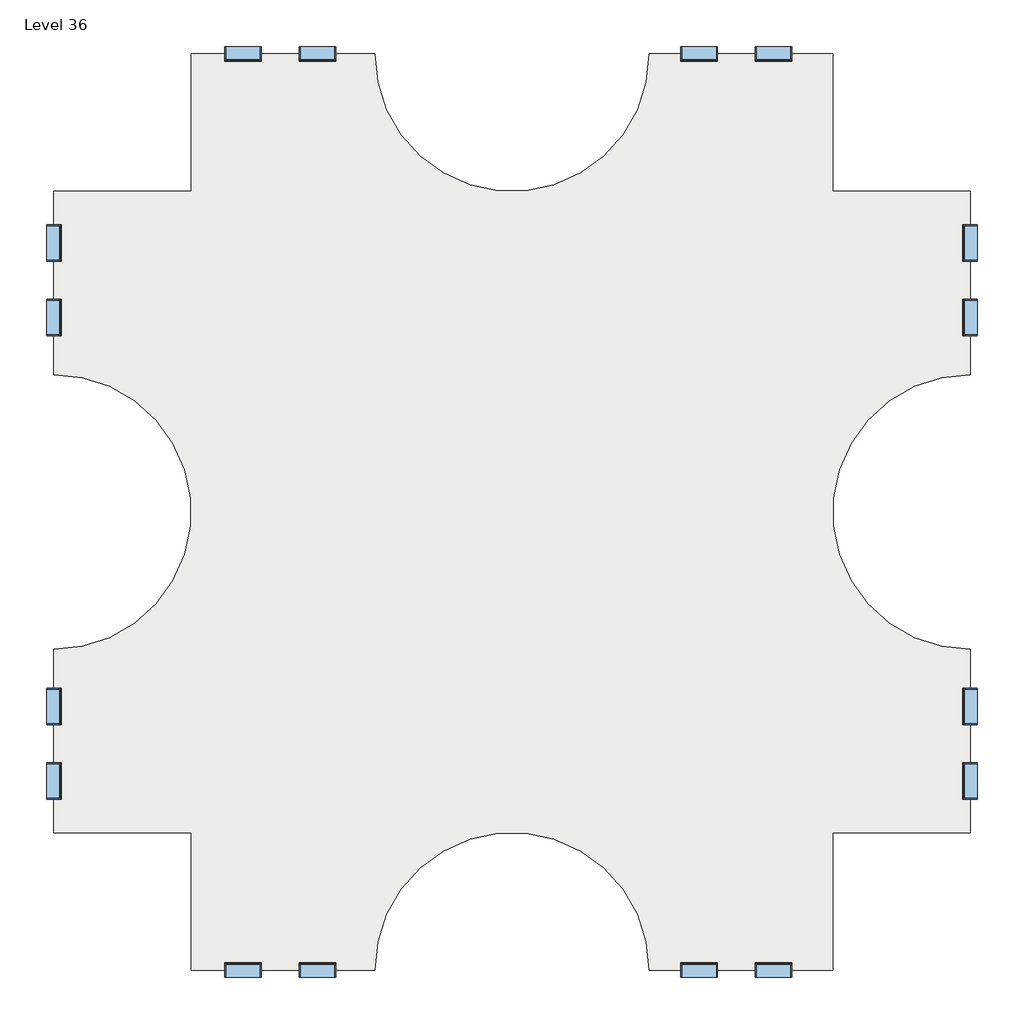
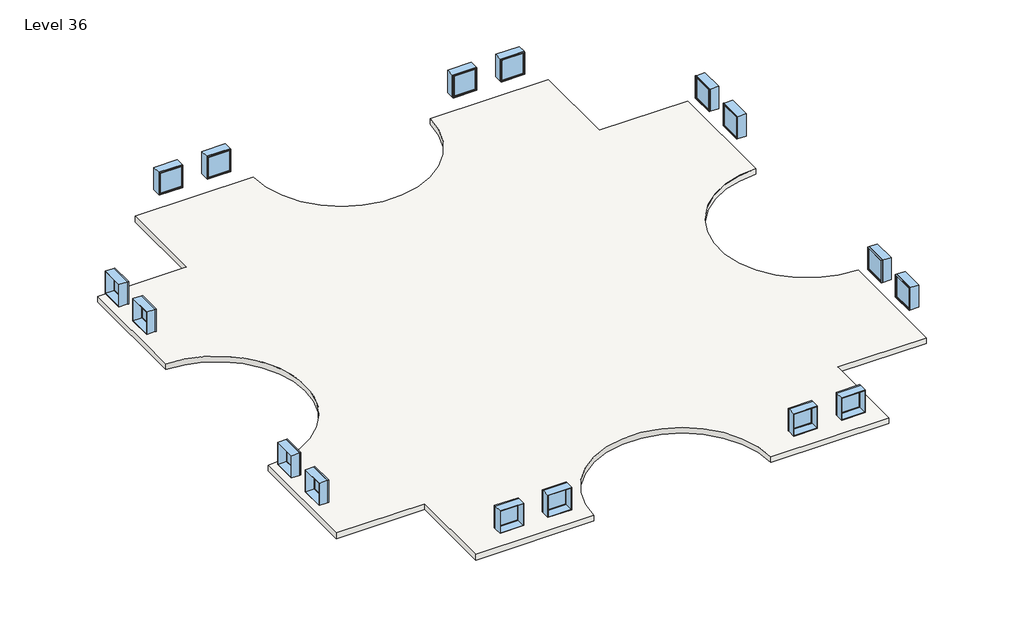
# One storey: 16 windows, 3 slabs.
"""IFC4 building model written with IfcOpenShell, lengths in millimetres."""

from ifc_helpers import new_model, si_unit, point, frame, frame_2d, origin, place, context, project, spatial, polyline, circle_curve, trimmed, segment, composite_curve, outline, extrude, transform, mapped, element, save
from components import window_d0035ecf, window_d434eb62

model = new_model("IFC4")

# Units and contexts
model_context = context("Model", 3, world=origin())
ifc_project = project(units=[si_unit("LENGTHUNIT", "METRE", prefix="MILLI")], contexts=[model_context])

# Site, building, storey
site = spatial("IfcSite", under=ifc_project)
building = spatial("IfcBuilding", under=site)
storey = spatial("IfcBuildingStorey", under=building, Name="Level 36", Elevation=106680.0)

# Slabs
placement = place(None, origin())
element("IfcSlab", 1, ObjectType="Generic - 12\"", at=placement, inside=storey, context=model_context, shape_type="SweptSolid", body=[
    extrude(outline(composite_curve([segment(polyline([(-7150.3629456, 4479.6634547), (-7150.3629456, 9051.6634547), (-1054.3629456, 9051.6634547)]), True, "CONTINUOUS"), segment(trimmed(circle_curve(frame_2d((3517.6370544, 9051.6634547)), 4572.0), [point((-1054.3629456, 9051.6634547))], [point((8089.6370544, 9051.6634547))], True, "CARTESIAN"), True, "CONTINUOUS"), segment(polyline([(8089.6370544, 9051.6634547), (14185.6370544, 9051.6634547), (14185.6370544, 4479.6634547), (18757.6370544, 4479.6634547), (18757.6370544, -1616.3365453)]), True, "CONTINUOUS"), segment(trimmed(circle_curve(frame_2d((18757.6370544, -6188.3365453)), 4572.0), [point((18757.6370544, -1616.3365453))], [point((18757.6370544, -10760.3365453))], True, "CARTESIAN"), True, "CONTINUOUS"), segment(polyline([(18757.6370544, -10760.3365453), (18757.6370544, -16856.3365453), (14185.6370544, -16856.3365453), (14185.6370544, -21428.3365453), (8089.6370544, -21428.3365453)]), True, "CONTINUOUS"), segment(trimmed(circle_curve(frame_2d((3517.6370544, -21428.3365453)), 4572.0), [point((8089.6370544, -21428.3365453))], [point((-1054.3629456, -21428.3365453))], True, "CARTESIAN"), True, "CONTINUOUS"), segment(polyline([(-1054.3629456, -21428.3365453), (-7150.3629456, -21428.3365453), (-7150.3629456, -16856.3365453), (-11722.3629456, -16856.3365453), (-11722.3629456, -10760.3365453)]), True, "CONTINUOUS"), segment(trimmed(circle_curve(frame_2d((-11722.3629456, -6188.3365453)), 4572.0), [point((-11722.3629456, -10760.3365453))], [point((-11722.3629456, -1616.3365453))], True, "CARTESIAN"), True, "CONTINUOUS"), segment(polyline([(-11722.3629456, -1616.3365453), (-11722.3629456, 4479.6634547), (-7150.3629456, 4479.6634547)]), True, "CONTINUOUS")], self_intersect=False)), frame((0.0, 0.0, 106375.2), z_axis=(0.0, 0.0, 1.0), x_axis=(1.0, 0.0, 0.0)), (0.0, 0.0, 1.0), 304.8),
])
element("IfcSlab", 2, ObjectType="Generic - 12\"", at=placement, inside=storey, context=model_context, shape_type="SweptSolid", body=[
    extrude(outline(composite_curve([segment(polyline([(-7150.3629456, 4479.6634547), (-7150.3629456, 9051.6634547), (-1054.3629456, 9051.6634547)]), True, "CONTINUOUS"), segment(trimmed(circle_curve(frame_2d((3517.6370544, 9051.6634547)), 4572.0), [point((-1054.3629456, 9051.6634547))], [point((8089.6370544, 9051.6634547))], True, "CARTESIAN"), True, "CONTINUOUS"), segment(polyline([(8089.6370544, 9051.6634547), (14185.6370544, 9051.6634547), (14185.6370544, 4479.6634547), (18757.6370544, 4479.6634547), (18757.6370544, -1616.3365453)]), True, "CONTINUOUS"), segment(trimmed(circle_curve(frame_2d((18757.6370544, -6188.3365453)), 4572.0), [point((18757.6370544, -1616.3365453))], [point((18757.6370544, -10760.3365453))], True, "CARTESIAN"), True, "CONTINUOUS"), segment(polyline([(18757.6370544, -10760.3365453), (18757.6370544, -16856.3365453), (14185.6370544, -16856.3365453), (14185.6370544, -21428.3365453), (8089.6370544, -21428.3365453)]), True, "CONTINUOUS"), segment(trimmed(circle_curve(frame_2d((3517.6370544, -21428.3365453)), 4572.0), [point((8089.6370544, -21428.3365453))], [point((-1054.3629456, -21428.3365453))], True, "CARTESIAN"), True, "CONTINUOUS"), segment(polyline([(-1054.3629456, -21428.3365453), (-7150.3629456, -21428.3365453), (-7150.3629456, -16856.3365453), (-11722.3629456, -16856.3365453), (-11722.3629456, -10760.3365453)]), True, "CONTINUOUS"), segment(trimmed(circle_curve(frame_2d((-11722.3629456, -6188.3365453)), 4572.0), [point((-11722.3629456, -10760.3365453))], [point((-11722.3629456, -1616.3365453))], True, "CARTESIAN"), True, "CONTINUOUS"), segment(polyline([(-11722.3629456, -1616.3365453), (-11722.3629456, 4479.6634547), (-7150.3629456, 4479.6634547)]), True, "CONTINUOUS")], self_intersect=False)), frame((0.0, 0.0, 106375.2), z_axis=(0.0, 0.0, 1.0), x_axis=(1.0, 0.0, 0.0)), (0.0, 0.0, 1.0), 304.8),
])
element("IfcSlab", 3, ObjectType="Generic - 12\"", at=placement, inside=storey, context=model_context, shape_type="SweptSolid", body=[
    extrude(outline(composite_curve([segment(polyline([(-7150.3629456, 4479.6634547), (-7150.3629456, 9051.6634547), (-1054.3629456, 9051.6634547)]), True, "CONTINUOUS"), segment(trimmed(circle_curve(frame_2d((3517.6370544, 9051.6634547)), 4572.0), [point((-1054.3629456, 9051.6634547))], [point((8089.6370544, 9051.6634547))], True, "CARTESIAN"), True, "CONTINUOUS"), segment(polyline([(8089.6370544, 9051.6634547), (14185.6370544, 9051.6634547), (14185.6370544, 4479.6634547), (18757.6370544, 4479.6634547), (18757.6370544, -1616.3365453)]), True, "CONTINUOUS"), segment(trimmed(circle_curve(frame_2d((18757.6370544, -6188.3365453)), 4572.0), [point((18757.6370544, -1616.3365453))], [point((18757.6370544, -10760.3365453))], True, "CARTESIAN"), True, "CONTINUOUS"), segment(polyline([(18757.6370544, -10760.3365453), (18757.6370544, -16856.3365453), (14185.6370544, -16856.3365453), (14185.6370544, -21428.3365453), (8089.6370544, -21428.3365453)]), True, "CONTINUOUS"), segment(trimmed(circle_curve(frame_2d((3517.6370544, -21428.3365453)), 4572.0), [point((8089.6370544, -21428.3365453))], [point((-1054.3629456, -21428.3365453))], True, "CARTESIAN"), True, "CONTINUOUS"), segment(polyline([(-1054.3629456, -21428.3365453), (-7150.3629456, -21428.3365453), (-7150.3629456, -16856.3365453), (-11722.3629456, -16856.3365453), (-11722.3629456, -10760.3365453)]), True, "CONTINUOUS"), segment(trimmed(circle_curve(frame_2d((-11722.3629456, -6188.3365453)), 4572.0), [point((-11722.3629456, -10760.3365453))], [point((-11722.3629456, -1616.3365453))], True, "CARTESIAN"), True, "CONTINUOUS"), segment(polyline([(-11722.3629456, -1616.3365453), (-11722.3629456, 4479.6634547), (-7150.3629456, 4479.6634547)]), True, "CONTINUOUS")], self_intersect=False)), frame((0.0, 0.0, 106375.2), z_axis=(0.0, 0.0, 1.0), x_axis=(1.0, 0.0, 0.0)), (0.0, 0.0, 1.0), 304.8),
])

# Windows
window_shape = window_d0035ecf(model_context)
element("IfcWindow", 4, ObjectType="Fixed : 48\" x 48\"", at=placement, inside=storey, context=model_context, shape_type="MappedRepresentation", body=[
    mapped(window_shape, transform((-11719.1879456, 247.3884547, 106680.0), x_axis=(0.0, -1.0, 0.0), y_axis=(1.0, 0.0, 0.0), z_axis=(0.0, 0.0, 1.0))),
])
element("IfcWindow", 5, ObjectType="Fixed : 48\" x 48\"", at=placement, inside=storey, context=model_context, shape_type="MappedRepresentation", body=[
    mapped(window_shape, transform((-5469.1993281, 9048.4884547, 106680.0), x_axis=(-1.0, 0.0, 0.0), y_axis=(0.0, -1.0, 0.0), z_axis=(0.0, 0.0, 1.0))),
])
element("IfcWindow", 6, ObjectType="Fixed : 48\" x 48\"", at=placement, inside=storey, context=model_context, shape_type="MappedRepresentation", body=[
    mapped(window_shape, transform((-11719.1879456, -15175.1729277, 106680.0), x_axis=(0.0, -1.0, 0.0), y_axis=(1.0, 0.0, 0.0), z_axis=(0.0, 0.0, 1.0))),
])
element("IfcWindow", 7, ObjectType="Fixed : 48\" x 48\"", at=placement, inside=storey, context=model_context, shape_type="MappedRepresentation", body=[
    mapped(window_shape, transform((-2918.0879456, -21425.1615453, 106680.0), x_axis=(1.0, 0.0, 0.0), y_axis=(0.0, 1.0, 0.0), z_axis=(0.0, 0.0, 1.0))),
])
element("IfcWindow", 8, ObjectType="Fixed : 48\" x 48\"", at=placement, inside=storey, context=model_context, shape_type="MappedRepresentation", body=[
    mapped(window_shape, transform((18754.4620544, 2798.4998372, 106680.0), x_axis=(0.0, 1.0, 0.0), y_axis=(-1.0, 0.0, 0.0), z_axis=(0.0, 0.0, 1.0))),
])
element("IfcWindow", 9, ObjectType="Fixed : 48\" x 48\"", at=placement, inside=storey, context=model_context, shape_type="MappedRepresentation", body=[
    mapped(window_shape, transform((9705.7120544, 9048.4884547, 106680.0), x_axis=(-1.0, 0.0, 0.0), y_axis=(0.0, -1.0, 0.0), z_axis=(0.0, 0.0, 1.0))),
])
element("IfcWindow", 10, ObjectType="Fixed : 48\" x 48\"", at=placement, inside=storey, context=model_context, shape_type="MappedRepresentation", body=[
    mapped(window_shape, transform((18754.4620544, -12624.0615453, 106680.0), x_axis=(0.0, 1.0, 0.0), y_axis=(-1.0, 0.0, 0.0), z_axis=(0.0, 0.0, 1.0))),
])
element("IfcWindow", 11, ObjectType="Fixed : 48\" x 48\"", at=placement, inside=storey, context=model_context, shape_type="MappedRepresentation", body=[
    mapped(window_shape, transform((12256.8234368, -21425.1615453, 106680.0), x_axis=(1.0, 0.0, 0.0), y_axis=(0.0, 1.0, 0.0), z_axis=(0.0, 0.0, 1.0))),
])
window_2_shape = window_d434eb62(model_context)
element("IfcWindow", 12, ObjectType="Fixed : 48\" x 48\"", at=placement, inside=storey, context=model_context, shape_type="MappedRepresentation", body=[
    mapped(window_2_shape, transform((-11719.1879456, 2798.4998372, 106680.0), x_axis=(0.0, 1.0, 0.0), y_axis=(-1.0, 0.0, 0.0), z_axis=(0.0, 0.0, 1.0))),
])
element("IfcWindow", 13, ObjectType="Fixed : 48\" x 48\"", at=placement, inside=storey, context=model_context, shape_type="MappedRepresentation", body=[
    mapped(window_2_shape, transform((-2918.0879456, 9048.4884547, 106680.0), x_axis=(1.0, 0.0, 0.0), y_axis=(0.0, 1.0, 0.0), z_axis=(0.0, 0.0, 1.0))),
])
element("IfcWindow", 14, ObjectType="Fixed : 48\" x 48\"", at=placement, inside=storey, context=model_context, shape_type="MappedRepresentation", body=[
    mapped(window_2_shape, transform((-11719.1879456, -12624.0615453, 106680.0), x_axis=(0.0, 1.0, 0.0), y_axis=(-1.0, 0.0, 0.0), z_axis=(0.0, 0.0, 1.0))),
])
element("IfcWindow", 15, ObjectType="Fixed : 48\" x 48\"", at=placement, inside=storey, context=model_context, shape_type="MappedRepresentation", body=[
    mapped(window_2_shape, transform((-5469.1993281, -21425.1615453, 106680.0), x_axis=(-1.0, 0.0, 0.0), y_axis=(0.0, -1.0, 0.0), z_axis=(0.0, 0.0, 1.0))),
])
element("IfcWindow", 16, ObjectType="Fixed : 48\" x 48\"", at=placement, inside=storey, context=model_context, shape_type="MappedRepresentation", body=[
    mapped(window_2_shape, transform((18754.4620544, 247.3884547, 106680.0), x_axis=(0.0, -1.0, 0.0), y_axis=(1.0, 0.0, 0.0), z_axis=(0.0, 0.0, 1.0))),
])
element("IfcWindow", 17, ObjectType="Fixed : 48\" x 48\"", at=placement, inside=storey, context=model_context, shape_type="MappedRepresentation", body=[
    mapped(window_2_shape, transform((12256.8234368, 9048.4884547, 106680.0), x_axis=(1.0, 0.0, 0.0), y_axis=(0.0, 1.0, 0.0), z_axis=(0.0, 0.0, 1.0))),
])
element("IfcWindow", 18, ObjectType="Fixed : 48\" x 48\"", at=placement, inside=storey, context=model_context, shape_type="MappedRepresentation", body=[
    mapped(window_2_shape, transform((18754.4620544, -15175.1729277, 106680.0), x_axis=(0.0, -1.0, 0.0), y_axis=(1.0, 0.0, 0.0), z_axis=(0.0, 0.0, 1.0))),
])
element("IfcWindow", 19, ObjectType="Fixed : 48\" x 48\"", at=placement, inside=storey, context=model_context, shape_type="MappedRepresentation", body=[
    mapped(window_2_shape, transform((9705.7120544, -21425.1615453, 106680.0), x_axis=(-1.0, 0.0, 0.0), y_axis=(0.0, -1.0, 0.0), z_axis=(0.0, 0.0, 1.0))),
])

save(model, "model.ifc")
